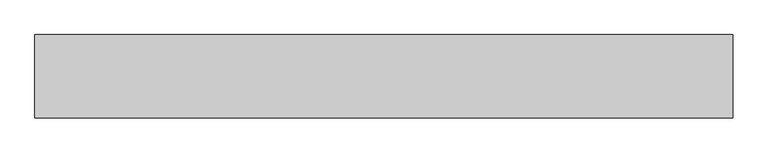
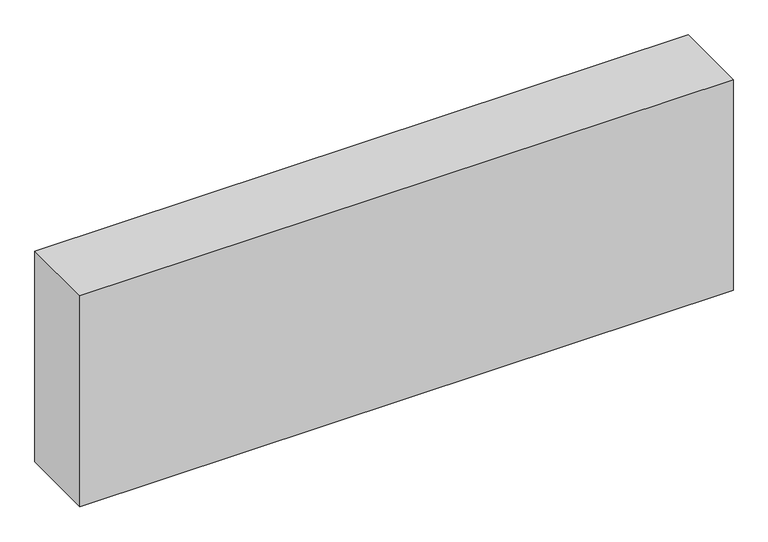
"""IFC4 building model written with IfcOpenShell, lengths in millimetres: proxy geometry."""

from ifc_helpers import new_model, si_unit, frame, origin, place, context, project, spatial, polyline, outline, extrude, source, transform, mapped, element, save


def structural_framing_1697560d(model_context):
    return source(origin(), model_context, "Body", "SweptSolid", [
        extrude(outline(polyline([(-586.25, -70.0), (-586.25, 70.0), (586.25, 70.0), (586.25, -70.0), (-586.25, -70.0)])), frame((0.0, 0.0, -400.0), z_axis=(0.0, 0.0, 1.0), x_axis=(1.0, 0.0, 0.0)), (0.0, 0.0, 1.0), 400.0),
    ])


if __name__ == "__main__":
    model = new_model("IFC4")
    model_context = context("Model", 3, world=origin())
    ifc_project = project(units=[si_unit("LENGTHUNIT", "METRE", prefix="MILLI")], contexts=[model_context])
    site = spatial("IfcSite", under=ifc_project)
    building = spatial("IfcBuilding", under=site)
    placement = place(None, origin())
    structural_framing_shape = structural_framing_1697560d(model_context)
    element("IfcBuildingElementProxy", 1, Name="Structural Framing", at=placement, inside=building, context=model_context, shape_type="MappedRepresentation", body=[
        mapped(structural_framing_shape, transform((0.0, 0.0, 0.0), x_axis=(1.0, 0.0, 0.0), y_axis=(0.0, 1.0, 0.0), z_axis=(0.0, 0.0, 1.0))),
    ])
    save(model, "model.ifc")
